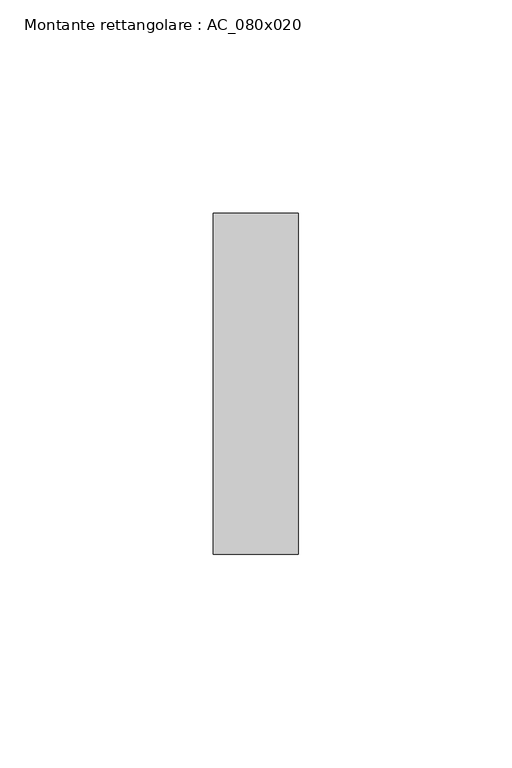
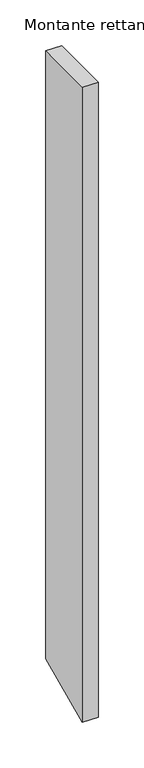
"""IFC4 building model written with IfcOpenShell, lengths in millimetres: member geometry, Montante rettangolare : AC_080x020."""

from ifc_helpers import new_model, si_unit, frame, origin, place, context, project, spatial, polyline, outline, extrude, source, transform, mapped, element, save


def montante_rettangolare_ac_080x020_12e86903(model_context):
    return source(origin(), model_context, "Body", "SweptSolid", [
        extrude(outline(polyline([(-40.0, 0.0), (40.0, 0.0), (40.0, -811.7211567), (-40.0, -848.2788433), (-40.0, 0.0)])), frame((-20.0, 0.0, 0.0), z_axis=(1.0, 0.0, 0.0), x_axis=(0.0, 1.0, 0.0)), (0.0, 0.0, 1.0), 20.0),
    ])


if __name__ == "__main__":
    model = new_model("IFC4")
    model_context = context("Model", 3, world=origin())
    ifc_project = project(units=[si_unit("LENGTHUNIT", "METRE", prefix="MILLI")], contexts=[model_context])
    site = spatial("IfcSite", under=ifc_project)
    building = spatial("IfcBuilding", under=site)
    placement = place(None, origin())
    montante_rettangolare_ac_080x020_shape = montante_rettangolare_ac_080x020_12e86903(model_context)
    element("IfcMember", 1, ObjectType="Montante rettangolare : AC_080x020", at=placement, inside=building, context=model_context, shape_type="MappedRepresentation", body=[
        mapped(montante_rettangolare_ac_080x020_shape, transform((0.0, 0.0, 0.0), x_axis=(1.0, 0.0, 0.0), y_axis=(0.0, 1.0, 0.0), z_axis=(0.0, 0.0, 1.0))),
    ])
    save(model, "model.ifc")
